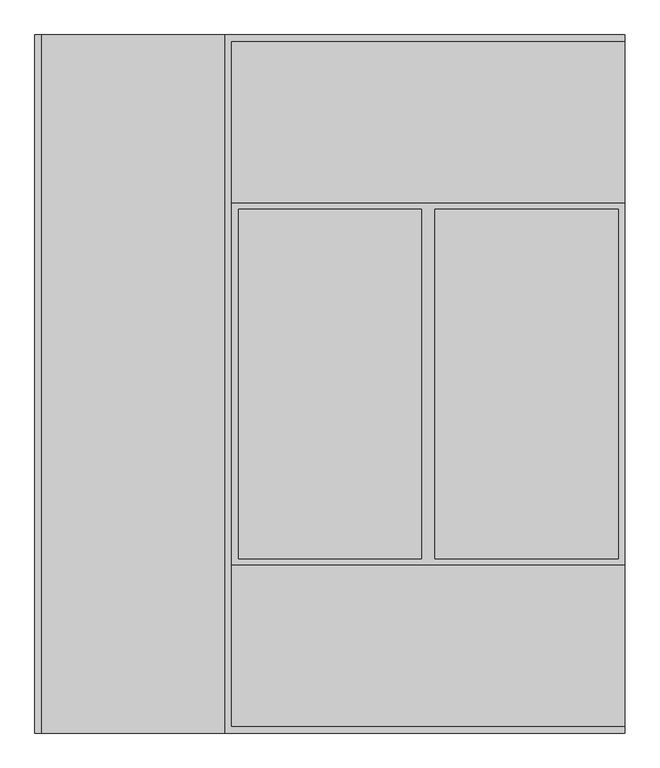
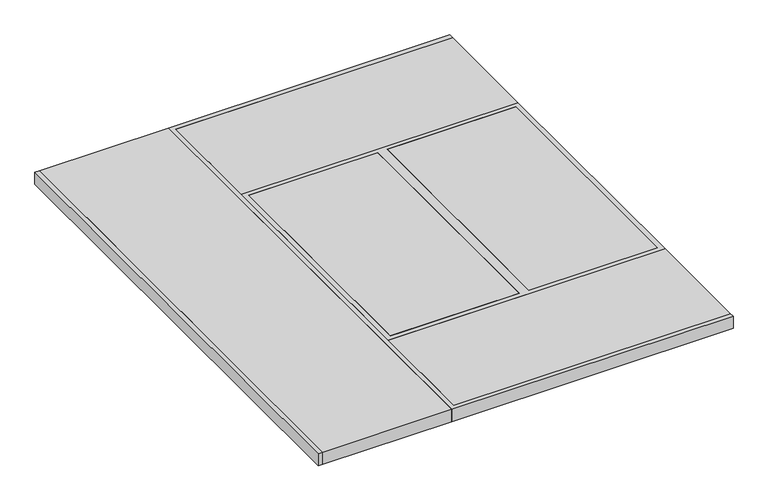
"""IFC4 building model written with IfcOpenShell, lengths in millimetres: furniture geometry, 畳_6畳 : 畳_6畳."""

import ifcopenshell
import ifcopenshell.guid

model = None  # the IFC model being written
_history = None  # IfcOwnerHistory: only IFC2X3 demands one
_inside = {}  # id of a spatial element -> (the spatial element, [elements in it])
_under = {}  # id of a project, library or spatial element -> (it, [spatial elements below it])
_declared = {}  # id of a project -> (the project, [libraries it declares])
_typed = {}  # id of a type object -> (the type object, [elements of that type])
_made_of = {}  # id of a material, layer set ... -> (it, [elements and type objects made of it])


def new_model(schema):
    """Start an empty IFC model of exactly this schema.

    Asked for "IFC4X3", IfcOpenShell would pick the latest addendum, in which some entities
    have other attributes; the version numbers below select the first issue.
    IFC2X3 requires an IfcOwnerHistory on every rooted entity: one is made here for all.
    """
    global model, _history
    if schema == "IFC4X3":
        model = ifcopenshell.file(schema_version=(4, 3, 0, 0))
    else:
        model = ifcopenshell.file(schema=schema)
    _inside.clear()
    _under.clear()
    _declared.clear()
    _typed.clear()
    _made_of.clear()
    _history = None
    if model.schema == "IFC2X3":
        org = make("IfcOrganization", Name="unknown")
        user = make(
            "IfcPersonAndOrganization",
            ThePerson=make("IfcPerson", FamilyName="unknown"),
            TheOrganization=org,
        )
        app = make(
            "IfcApplication",
            ApplicationDeveloper=org,
            Version="unknown",
            ApplicationFullName="unknown",
            ApplicationIdentifier="unknown",
        )
        _history = make(
            "IfcOwnerHistory",
            OwningUser=user,
            OwningApplication=app,
            ChangeAction="ADDED",
            CreationDate=0,
        )
    return model


def make(cls, **values):
    """One entity of the class cls with the attributes given. An attribute that is None is left unset."""
    return model.create_entity(
        cls, **{name: value for name, value in values.items() if value is not None}
    )


def rooted(cls, **values):
    """An entity with a GlobalId (a new one), such as an element, a storey or a relation."""
    return make(cls, GlobalId=ifcopenshell.guid.new(), OwnerHistory=_history, **values)


def si_unit(unit_type, name, prefix=None):
    """IfcSIUnit, for example si_unit("LENGTHUNIT", "METRE", prefix="MILLI")."""
    return make("IfcSIUnit", UnitType=unit_type, Prefix=prefix, Name=name)


def assignment(units):
    """IfcUnitAssignment: the units of a project."""
    return None if units is None else make("IfcUnitAssignment", Units=units)


def point(xyz):
    """IfcCartesianPoint."""
    return None if xyz is None else make("IfcCartesianPoint", Coordinates=xyz)


def direction(xyz):
    """IfcDirection."""
    return None if xyz is None else make("IfcDirection", DirectionRatios=xyz)


def frame(location, z_axis=None, x_axis=None):
    """IfcAxis2Placement3D, a coordinate frame: its origin and axes. An axis left out is left unset."""
    return make(
        "IfcAxis2Placement3D",
        Location=point(location),
        Axis=direction(z_axis),
        RefDirection=direction(x_axis),
    )


def origin():
    """The frame at (0, 0, 0) with its axes left unset."""
    return frame((0.0, 0.0, 0.0))


def place(relative_to, where):
    """IfcLocalPlacement: puts the frame where relative to a parent placement (None: the world)."""
    return make(
        "IfcLocalPlacement", PlacementRelTo=relative_to, RelativePlacement=where
    )


def context(
    kind, dimensions, precision=None, world=None, true_north=None, identifier=None
):
    """IfcGeometricRepresentationContext, for example the 3D "Model" context."""
    return make(
        "IfcGeometricRepresentationContext",
        ContextIdentifier=identifier,
        ContextType=kind,
        CoordinateSpaceDimension=dimensions,
        Precision=precision,
        WorldCoordinateSystem=world,
        TrueNorth=true_north,
    )


def project(units=None, contexts=None):
    """IfcProject with its units and contexts."""
    return rooted(
        "IfcProject",
        Name="project",
        RepresentationContexts=contexts,
        UnitsInContext=assignment(units),
    )


def spatial(cls, under=None, at=None, **own):
    """A site, building, storey or space (cls), placed at a placement, below another one or the project."""
    s = rooted(cls, ObjectPlacement=at, **own)
    if under is not None:
        _under.setdefault(under.id(), (under, []))[1].append(s)
    return s


def polyline(points):
    """IfcPolyline through the points."""
    return make("IfcPolyline", Points=[point(p) for p in points])


def outline(outer, holes=None, kind="AREA"):
    """IfcArbitraryClosedProfileDef: a profile drawn as a closed curve; with holes, ...WithVoids."""
    if holes is None:
        return make("IfcArbitraryClosedProfileDef", ProfileType=kind, OuterCurve=outer)
    return make(
        "IfcArbitraryProfileDefWithVoids",
        ProfileType=kind,
        OuterCurve=outer,
        InnerCurves=holes,
    )


def extrude(swept, where, along, depth):
    """IfcExtrudedAreaSolid: the profile swept, set in the frame where, extruded along a direction by depth."""
    return make(
        "IfcExtrudedAreaSolid",
        SweptArea=swept,
        Position=where,
        ExtrudedDirection=direction(along),
        Depth=depth,
    )


def shape(context_of_items, identifier, shape_type, items):
    """IfcShapeRepresentation: the items that make up one representation, for example the "Body"."""
    return make(
        "IfcShapeRepresentation",
        ContextOfItems=context_of_items,
        RepresentationIdentifier=identifier,
        RepresentationType=shape_type,
        Items=items,
    )


def source(mapping_origin, context_of_items, identifier, shape_type, items):
    """IfcRepresentationMap: a shape defined once, which mapped items show again and again."""
    return make(
        "IfcRepresentationMap",
        MappingOrigin=mapping_origin,
        MappedRepresentation=shape(context_of_items, identifier, shape_type, items),
    )


def transform(
    local_origin,
    x_axis=None,
    y_axis=None,
    z_axis=None,
    scale=None,
    scale2=None,
    scale3=None,
    uniform=True,
):
    """IfcCartesianTransformationOperator3D, or its non-uniform kind. x_axis, y_axis, z_axis: its Axis1, 2, 3."""
    if uniform:
        return make(
            "IfcCartesianTransformationOperator3D",
            Axis1=direction(x_axis),
            Axis2=direction(y_axis),
            LocalOrigin=point(local_origin),
            Scale=scale,
            Axis3=direction(z_axis),
        )
    return make(
        "IfcCartesianTransformationOperator3DnonUniform",
        Axis1=direction(x_axis),
        Axis2=direction(y_axis),
        LocalOrigin=point(local_origin),
        Scale=scale,
        Axis3=direction(z_axis),
        Scale2=scale2,
        Scale3=scale3,
    )


def mapped(mapping_source, mapping_target):
    """IfcMappedItem: shows the shape of a source again, moved by a transform."""
    return make(
        "IfcMappedItem", MappingSource=mapping_source, MappingTarget=mapping_target
    )


def made_of(thing, what):
    """Note that an element or type object is made of a material, layer set ...; save() writes the relation."""
    if what is not None:
        _made_of.setdefault(what.id(), (what, []))[1].append(thing)
    return thing


def element(
    cls,
    number,
    at=None,
    inside=None,
    cuts=None,
    type_object=None,
    material=None,
    context=None,
    identifier="Body",
    shape_type=None,
    held_by="IfcProductDefinitionShape",
    body=None,
    shapes=None,
    **own,
):
    """One element of the class cls, such as IfcWall. Its Tag is "e" and its number.

    at: its placement. inside: the storey or other place that contains it. cuts: it is an
    opening in that element (IfcRelVoidsElement). A single representation is given by context,
    identifier, shape_type and body (its items); several are given by shapes. held_by: the class
    of the entity that holds the representations. save() writes the other relations.
    """
    e = rooted(cls, Tag="e%d" % number, ObjectPlacement=at, **own)
    if body is not None:
        shapes = [shape(context, identifier, shape_type, body)]
    if shapes is not None:
        e.Representation = make(held_by, Representations=shapes)
    if inside is not None:
        _inside.setdefault(inside.id(), (inside, []))[1].append(e)
    if cuts is not None:
        rooted(
            "IfcRelVoidsElement", RelatingBuildingElement=cuts, RelatedOpeningElement=e
        )
    if type_object is not None:
        _typed.setdefault(type_object.id(), (type_object, []))[1].append(e)
    return made_of(e, material)


def aggregate(whole, parts):
    """IfcRelAggregates: a whole, such as a stair, and the parts it consists of."""
    return rooted("IfcRelAggregates", RelatingObject=whole, RelatedObjects=parts)


def save(model, path):
    """Write the relations noted so far, then the file.

    IfcRelAggregates (storeys below a building ...), IfcRelContainedInSpatialStructure (elements
    in a storey), IfcRelDefinesByType, IfcRelAssociatesMaterial and IfcRelDeclares: one each for
    every whole, place, type object, material and project.
    """
    for whole, parts in _under.values():
        aggregate(whole, parts)
    for where, things in _inside.values():
        rooted(
            "IfcRelContainedInSpatialStructure",
            RelatedElements=things,
            RelatingStructure=where,
        )
    for kind, things in _typed.values():
        rooted("IfcRelDefinesByType", RelatedObjects=things, RelatingType=kind)
    for what, things in _made_of.values():
        rooted("IfcRelAssociatesMaterial", RelatedObjects=things, RelatingMaterial=what)
    for by, libraries in _declared.values():
        rooted("IfcRelDeclares", RelatingContext=by, RelatedDefinitions=libraries)
    model.write(path)


def furniture_64ff5e1c(model_context):
    return source(origin(), model_context, "Body", "SweptSolid", [
        extrude(outline(polyline([(-463.3333333, -1536.875), (-1270.0, -1536.875), (-1270.0, 1536.875), (-463.3333333, 1536.875), (-463.3333333, -1536.875)])), frame((0.0, 0.0, 120.0), z_axis=(0.0, 0.0, 1.0), x_axis=(1.0, 0.0, 0.0)), (0.0, 0.0, 1.0), 80.0),
        extrude(outline(polyline([(1300.0, -1506.875), (-433.3333333, -1506.875), (-433.3333333, -798.4375), (1300.0, -798.4375), (1300.0, -1506.875)])), frame((0.0, 0.0, 120.0), z_axis=(0.0, 0.0, 1.0), x_axis=(1.0, 0.0, 0.0)), (0.0, 0.0, 1.0), 80.0),
        extrude(outline(polyline([(403.3333333, -768.4375), (-403.3333333, -768.4375), (-403.3333333, 768.4375), (403.3333333, 768.4375), (403.3333333, -768.4375)])), frame((0.0, 0.0, 120.0), z_axis=(0.0, 0.0, 1.0), x_axis=(1.0, 0.0, 0.0)), (0.0, 0.0, 1.0), 80.0),
        extrude(outline(polyline([(1270.0, -768.4375), (463.3333333, -768.4375), (463.3333333, 768.4375), (1270.0, 768.4375), (1270.0, -768.4375)])), frame((0.0, 0.0, 120.0), z_axis=(0.0, 0.0, 1.0), x_axis=(1.0, 0.0, 0.0)), (0.0, 0.0, 1.0), 80.0),
        extrude(outline(polyline([(1300.0, 798.4375), (-433.3333333, 798.4375), (-433.3333333, 1506.875), (1300.0, 1506.875), (1300.0, 798.4375)])), frame((0.0, 0.0, 120.0), z_axis=(0.0, 0.0, 1.0), x_axis=(1.0, 0.0, 0.0)), (0.0, 0.0, 1.0), 80.0),
        extrude(outline(polyline([(1300.0, -798.4375), (-433.3333333, -798.4375), (-433.3333333, 798.4375), (1300.0, 798.4375), (1300.0, -798.4375)]), holes=[polyline([(403.3333333, -768.4375), (403.3333333, 768.4375), (-403.3333333, 768.4375), (-403.3333333, -768.4375), (403.3333333, -768.4375)]), polyline([(1270.0, -768.4375), (1270.0, 768.4375), (463.3333333, 768.4375), (463.3333333, -768.4375), (1270.0, -768.4375)])]), frame((0.0, 0.0, 120.0), z_axis=(0.0, 0.0, 1.0), x_axis=(1.0, 0.0, 0.0)), (0.0, 0.0, 1.0), 80.0),
        extrude(outline(polyline([(-1270.0, -1536.875), (-1300.0, -1536.875), (-1300.0, 1536.875), (-1270.0, 1536.875), (-1270.0, -1536.875)])), frame((0.0, 0.0, 120.0), z_axis=(0.0, 0.0, 1.0), x_axis=(1.0, 0.0, 0.0)), (0.0, 0.0, 1.0), 80.0),
        extrude(outline(polyline([(1300.0, -1536.875), (-463.3333333, -1536.875), (-463.3333333, 1536.875), (1300.0, 1536.875), (1300.0, 1506.875), (-433.3333333, 1506.875), (-433.3333333, -1506.875), (1300.0, -1506.875), (1300.0, -1536.875)])), frame((0.0, 0.0, 120.0), z_axis=(0.0, 0.0, 1.0), x_axis=(1.0, 0.0, 0.0)), (0.0, 0.0, 1.0), 80.0),
    ])


if __name__ == "__main__":
    model = new_model("IFC4")
    model_context = context("Model", 3, world=origin())
    ifc_project = project(units=[si_unit("LENGTHUNIT", "METRE", prefix="MILLI")], contexts=[model_context])
    site = spatial("IfcSite", under=ifc_project)
    building = spatial("IfcBuilding", under=site)
    placement = place(None, origin())
    furniture_shape = furniture_64ff5e1c(model_context)
    element("IfcFurniture", 1, ObjectType="畳_6畳 : 畳_6畳", at=placement, inside=building, context=model_context, shape_type="MappedRepresentation", body=[
        mapped(furniture_shape, transform((0.0, 0.0, 0.0), x_axis=(1.0, 0.0, 0.0), y_axis=(0.0, 1.0, 0.0), z_axis=(0.0, 0.0, 1.0))),
    ])
    save(model, "model.ifc")
